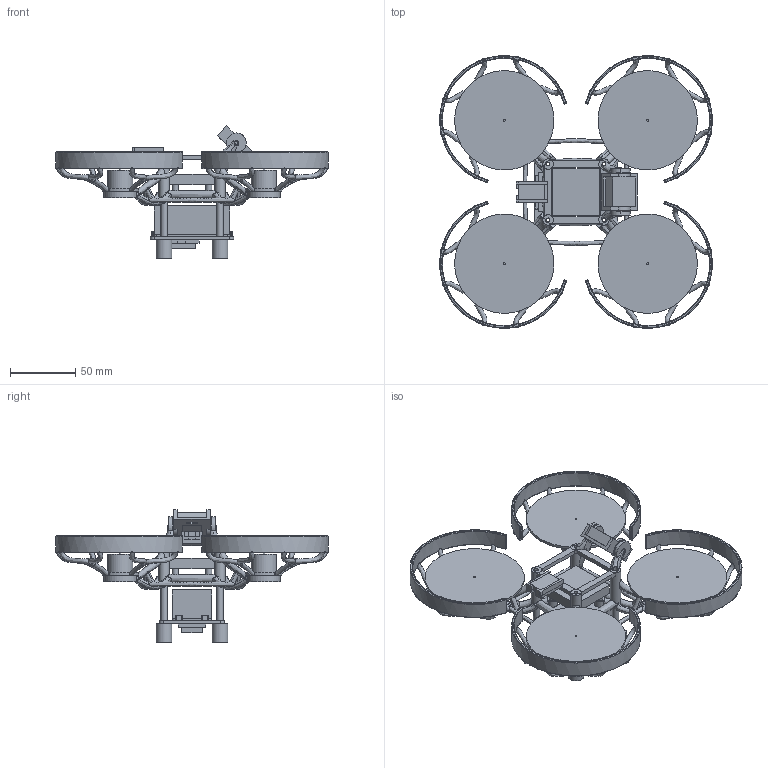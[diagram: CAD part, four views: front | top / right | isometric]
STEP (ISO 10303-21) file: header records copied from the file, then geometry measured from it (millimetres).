
FILE_DESCRIPTION(('Open CASCADE Model'),'2;1');
FILE_NAME('Open CASCADE Shape Model','2026-10-11T00:34:16',('Author'),( 'Open CASCADE'),'Open CASCADE STEP processor 7.8','Open CASCADE 7.8' ,'Unknown');
FILE_SCHEMA(('AUTOMOTIVE_DESIGN { 1 0 10303 214 1 1 1 1 }'));
Length unit declared in the file: millimetre
Products named in the file (38): CDE1302_Astra_01; Frame_PETG; Guard_1_PETG; Guard_2_PETG; Guard_3_PETG; Guard_4_PETG; BottomPlate_PETG; BatteryPad_TPU; CameraCradle_TPU; Foot_1_TPU; Foot_2_TPU; Foot_3_TPU; Foot_4_TPU; Motor_1; Shaft_1; Prop_1; Motor_2; Shaft_2; Prop_2; Motor_3; Shaft_3; Prop_3; Motor_4; Shaft_4; Prop_4; Battery; FC; ELRS; Camera; MTF02P; Standoff_1; Standoff_2; Standoff_3; Standoff_4; Isolator_1; Isolator_2; Isolator_3; Isolator_4
Assembly tree (37 placements, depth 2):
  CDE1302_Astra_01
    Frame_PETG
    Guard_1_PETG
    Guard_2_PETG
    Guard_3_PETG
    Guard_4_PETG
    BottomPlate_PETG
    BatteryPad_TPU
    CameraCradle_TPU
    Foot_1_TPU
    Foot_2_TPU
    Foot_3_TPU
    Foot_4_TPU
    Motor_1
    Shaft_1
    Prop_1
    Motor_2
    Shaft_2
    Prop_2
    Motor_3
    Shaft_3
    Prop_3
    Motor_4
    Shaft_4
    Prop_4
    Battery
    FC
    ELRS
    Camera
    MTF02P
    Standoff_1
    Standoff_2
    Standoff_3
    Standoff_4
    Isolator_1
    Isolator_2
    Isolator_3
    Isolator_4
Bounding box: 208.99 x 208.99 x 101.51 mm (x, y, z)
Volume: 198156.9 mm3; surface area: 148765.8 mm2
Topology: 37 solids, 37 shells, 1581 faces, 4265 edges, 2736 vertices
Faces by surface type: plane 1040, cylinder 308, bspline 137, torus 64, sphere 32
Full cylindrical faces by diameter (mm): 1.5 x4, 2.3 x8, 2.4 x8, 2.5 x2, 2.8 x8, 2.9 x16, 3.3 x2, 4.8 x4, 5 x16, 8 x8, 12 x4, 19.4 x4, 25 x4, 76.2 x4
Entity records: 275944 total; most frequent: CARTESIAN_POINT 197115, DIRECTION 12402, ORIENTED_EDGE 8454, PCURVE 8454, DEFINITIONAL_REPRESENTATION 8454, LINE 7237, VECTOR 7237, EDGE_CURVE 4227
